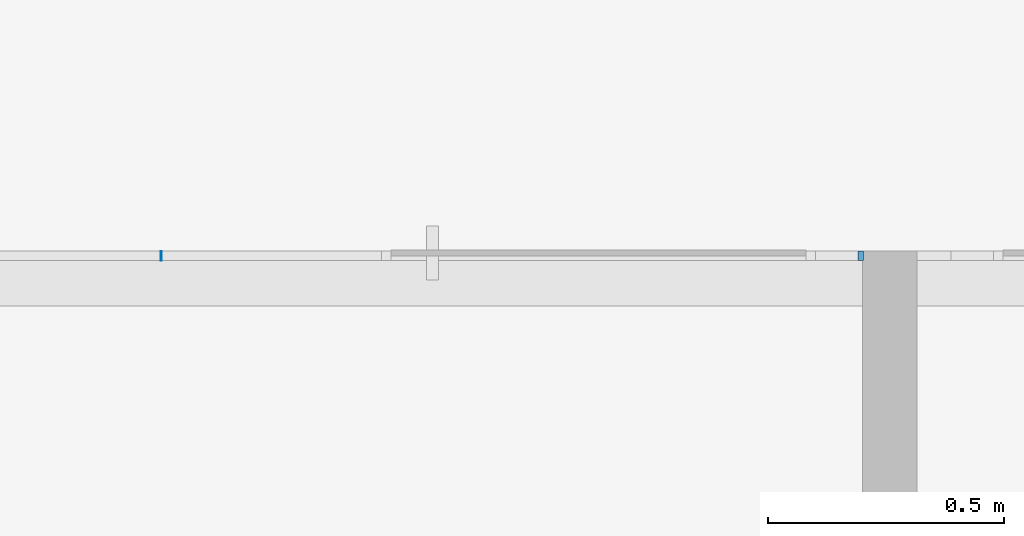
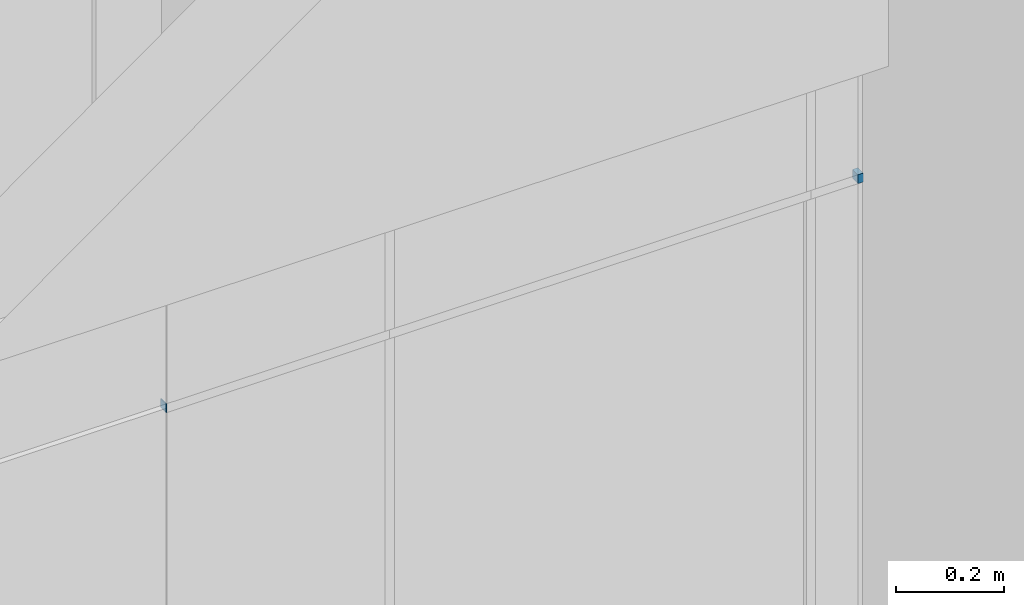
# One storey, part 22 of 73: 2 members, 1 element without a shape of its own.
"""IFC2X3 building model written with IfcOpenShell, lengths in millimetres."""

from ifc_helpers import new_model, entity, si_unit, converted_unit, derived_unit, direction, frame, origin, origin_2d_with_axis, place, context, subcontext, project, spatial, rectangle, extrude, source, transform, mapped, material, type_object, type_shapes, element, aggregate, save


model = new_model("IFC2X3")

# Units and contexts
model_context = context("Model", 3, precision=0.01, world=origin(), true_north=direction((6.12303176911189e-17, 1.0)))
body_context = subcontext(model_context, "Body", "Model", "MODEL_VIEW")
ifc_project = project(units=[si_unit("LENGTHUNIT", "METRE", prefix="MILLI"), si_unit("AREAUNIT", "SQUARE_METRE"), si_unit("VOLUMEUNIT", "CUBIC_METRE"), converted_unit("PLANEANGLEUNIT", "DEGREE", entity("IfcRatioMeasure", 0.0174532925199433), si_unit("PLANEANGLEUNIT", "RADIAN"), dimensions=[0, 0, 0, 0, 0, 0, 0]), si_unit("MASSUNIT", "GRAM", prefix="KILO"), derived_unit("MASSDENSITYUNIT", [(si_unit("MASSUNIT", "GRAM", prefix="KILO"), 1), (si_unit("LENGTHUNIT", "METRE"), -3)]), si_unit("TIMEUNIT", "SECOND"), si_unit("FREQUENCYUNIT", "HERTZ"), si_unit("THERMODYNAMICTEMPERATUREUNIT", "DEGREE_CELSIUS"), derived_unit("THERMALTRANSMITTANCEUNIT", [(si_unit("MASSUNIT", "GRAM", prefix="KILO"), 1), (si_unit("THERMODYNAMICTEMPERATUREUNIT", "KELVIN"), -1), (si_unit("TIMEUNIT", "SECOND"), -3)]), derived_unit("VOLUMETRICFLOWRATEUNIT", [(si_unit("LENGTHUNIT", "METRE"), 3), (si_unit("TIMEUNIT", "SECOND"), -1)]), si_unit("ELECTRICCURRENTUNIT", "AMPERE"), si_unit("ELECTRICVOLTAGEUNIT", "VOLT"), si_unit("POWERUNIT", "WATT"), si_unit("FORCEUNIT", "NEWTON", prefix="KILO"), si_unit("ILLUMINANCEUNIT", "LUX"), si_unit("LUMINOUSFLUXUNIT", "LUMEN"), si_unit("LUMINOUSINTENSITYUNIT", "CANDELA"), derived_unit("USERDEFINED", [(si_unit("MASSUNIT", "GRAM", prefix="KILO"), -1), (si_unit("LENGTHUNIT", "METRE"), -2), (si_unit("TIMEUNIT", "SECOND"), 3), (si_unit("LUMINOUSFLUXUNIT", "LUMEN"), 1)]), derived_unit("LINEARVELOCITYUNIT", [(si_unit("LENGTHUNIT", "METRE"), 1), (si_unit("TIMEUNIT", "SECOND"), -1)]), si_unit("PRESSUREUNIT", "PASCAL"), derived_unit("USERDEFINED", [(si_unit("LENGTHUNIT", "METRE"), -2), (si_unit("MASSUNIT", "GRAM", prefix="KILO"), 1), (si_unit("TIMEUNIT", "SECOND"), -2)])], contexts=[model_context])

# Site, building, storey
site_placement = place(None, frame((-151.875543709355, 2715.0, 0.0)))
site = spatial("IfcSite", under=ifc_project, at=site_placement, Name="Surface", CompositionType="ELEMENT")
building_placement = place(site_placement, origin())
building = spatial("IfcBuilding", under=site, at=building_placement, CompositionType="ELEMENT")
storey_placement = place(building_placement, frame((0.0, 0.0, 6730.43000000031)))
storey = spatial("IfcBuildingStorey", under=building, at=storey_placement, Name="3 korrus", CompositionType="ELEMENT", Elevation=6730.43000000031)

# Curtain wall, members
curtain_wall_type = type_object("IfcCurtainWallType", Name="Curtain Wall:Klaassein KLS-17", PredefinedType="NOTDEFINED")
curtain_wall_placement = place(storey_placement, frame((0.0, 0.0, -6730.43000000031)))
curtain_wall = element("IfcCurtainWall", 1, at=curtain_wall_placement, inside=storey, type_object=curtain_wall_type, Name="Curtain Wall:Klaassein KLS-17", ObjectType="Curtain Wall:Klaassein KLS-17")
ifc_material = material(Name="__Uks_hele tamm")
member_type_1 = type_object("IfcMemberType", Name="20 x 20mm", PredefinedType="MEMBER")
shared_shape_1 = source(origin(), body_context, "Body", "SweptSolid", [
    extrude(rectangle(XDim=20.0, YDim=20.0, at=origin_2d_with_axis()), frame((0.0, 0.0, -1.99999969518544), z_axis=(0.0, 0.0, 1.0), x_axis=(0.0, -1.0, 0.0)), (0.0, 0.0, 1.0), 1.99999969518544),
])
type_shapes(member_type_1, [shared_shape_1])
member_1_placement = place(storey_placement, frame((13915.5647264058, 4355.04493399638, 2090.0), z_axis=(1.0, 0.0, 0.0), x_axis=(0.0, 0.0, 1.0)))
member_1 = element("IfcMember", 2, at=member_1_placement, type_object=member_type_1, material=ifc_material, Name="Rectangular Mullion:20 x 20mm", ObjectType="20 x 20mm", context=body_context, shape_type="MappedRepresentation", body=[
    mapped(shared_shape_1, transform((0.0, 0.0, 0.0), scale=1.0)),
])
member_type_2 = type_object("IfcMemberType", Name="20 x 20mm", PredefinedType="MEMBER")
shared_shape_2 = source(origin(), body_context, "Body", "SweptSolid", [
    extrude(rectangle(XDim=20.0, YDim=20.0, at=origin_2d_with_axis()), frame((0.0, 0.0, -12.0), z_axis=(0.0, 0.0, 1.0), x_axis=(0.0, -1.0, 0.0)), (0.0, 0.0, 1.0), 11.9999999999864),
])
type_shapes(member_type_2, [shared_shape_2])
member_2_placement = place(storey_placement, frame((15403.5647264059, 4355.04493399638, 2090.0), z_axis=(1.0, 0.0, 0.0), x_axis=(0.0, 0.0, 1.0)))
member_2 = element("IfcMember", 3, at=member_2_placement, type_object=member_type_2, material=ifc_material, Name="Rectangular Mullion:20 x 20mm", ObjectType="20 x 20mm", context=body_context, shape_type="MappedRepresentation", body=[
    mapped(shared_shape_2, transform((0.0, 0.0, 0.0), scale=1.0)),
])
aggregate(curtain_wall, [member_1, member_2])

save(model, "model.ifc")
